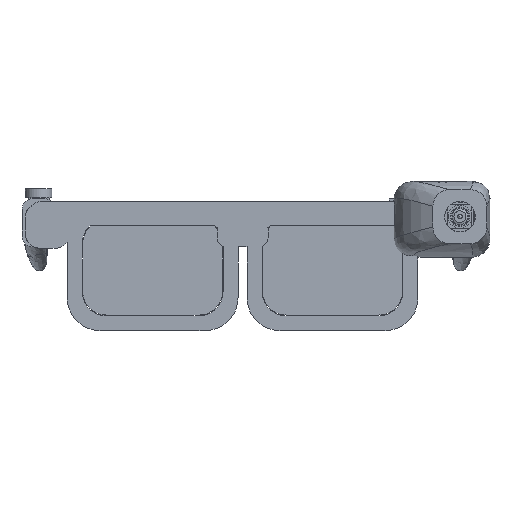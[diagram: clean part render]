
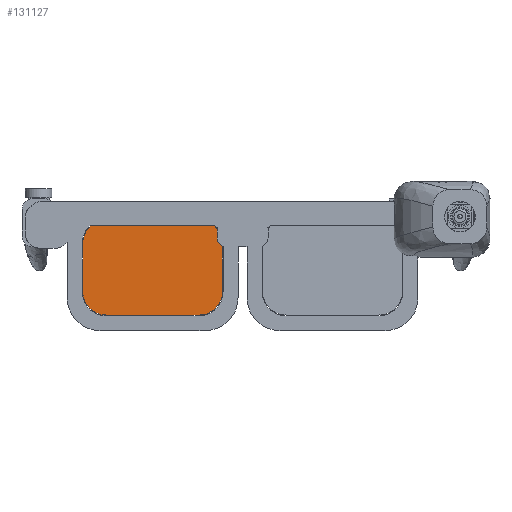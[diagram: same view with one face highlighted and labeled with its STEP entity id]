
A CAD part, front view. The second image highlights one B-rep face of the part: STEP entity #131127.
In plain terms, the highlighted planar face has unit normal (0, -1, 0).
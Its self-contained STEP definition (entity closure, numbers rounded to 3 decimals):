
#130875 = EDGE_CURVE('',#130876,#130878,#130880,.T.);
#130876 = VERTEX_POINT('',#130877);
#130877 = CARTESIAN_POINT('',(-53.3,1.5,-8.));
#130878 = VERTEX_POINT('',#130879);
#130879 = CARTESIAN_POINT('',(-45.5,1.5,-15.8));
#130880 = CIRCLE('',#130881,7.8);
#130881 = AXIS2_PLACEMENT_3D('',#130882,#130883,#130884);
#130882 = CARTESIAN_POINT('',(-45.5,1.5,-8.));
#130883 = DIRECTION('',(0.,-1.,0.));
#130884 = DIRECTION('',(1.,0.,0.));
#130926 = EDGE_CURVE('',#130878,#130927,#130929,.T.);
#130927 = VERTEX_POINT('',#130928);
#130928 = CARTESIAN_POINT('',(-14.5,1.5,-15.8));
#130929 = LINE('',#130930,#130931);
#130930 = CARTESIAN_POINT('',(-45.5,1.5,-15.8));
#130931 = VECTOR('',#130932,1.);
#130932 = DIRECTION('',(1.,0.,0.));
#130958 = VERTEX_POINT('',#130959);
#130959 = CARTESIAN_POINT('',(-53.3,1.5,8.));
#130965 = EDGE_CURVE('',#130876,#130958,#130966,.T.);
#130966 = LINE('',#130967,#130968);
#130967 = CARTESIAN_POINT('',(-53.3,1.5,-8.));
#130968 = VECTOR('',#130969,1.);
#130969 = DIRECTION('',(0.,0.,1.));
#130979 = EDGE_CURVE('',#130927,#130980,#130982,.T.);
#130980 = VERTEX_POINT('',#130981);
#130981 = CARTESIAN_POINT('',(-6.7,1.5,-8.));
#130982 = CIRCLE('',#130983,7.8);
#130983 = AXIS2_PLACEMENT_3D('',#130984,#130985,#130986);
#130984 = CARTESIAN_POINT('',(-14.5,1.5,-8.));
#130985 = DIRECTION('',(0.,-1.,0.));
#130986 = DIRECTION('',(1.,0.,0.));
#131012 = EDGE_CURVE('',#131013,#130958,#131015,.T.);
#131013 = VERTEX_POINT('',#131014);
#131014 = CARTESIAN_POINT('',(-45.5,1.5,15.8));
#131015 = CIRCLE('',#131016,7.8);
#131016 = AXIS2_PLACEMENT_3D('',#131017,#131018,#131019);
#131017 = CARTESIAN_POINT('',(-45.5,1.5,8.));
#131018 = DIRECTION('',(0.,-1.,0.));
#131019 = DIRECTION('',(1.,0.,0.));
#131054 = EDGE_CURVE('',#131013,#131055,#131057,.T.);
#131055 = VERTEX_POINT('',#131056);
#131056 = CARTESIAN_POINT('',(-14.5,1.5,15.8));
#131057 = LINE('',#131058,#131059);
#131058 = CARTESIAN_POINT('',(-45.5,1.5,15.8));
#131059 = VECTOR('',#131060,1.);
#131060 = DIRECTION('',(1.,0.,0.));
#131086 = VERTEX_POINT('',#131087);
#131087 = CARTESIAN_POINT('',(-6.7,1.5,8.));
#131093 = EDGE_CURVE('',#130980,#131086,#131094,.T.);
#131094 = LINE('',#131095,#131096);
#131095 = CARTESIAN_POINT('',(-6.7,1.5,-8.));
#131096 = VECTOR('',#131097,1.);
#131097 = DIRECTION('',(0.,0.,1.));
#131107 = EDGE_CURVE('',#131086,#131055,#131108,.T.);
#131108 = CIRCLE('',#131109,7.8);
#131109 = AXIS2_PLACEMENT_3D('',#131110,#131111,#131112);
#131110 = CARTESIAN_POINT('',(-14.5,1.5,8.));
#131111 = DIRECTION('',(0.,-1.,0.));
#131112 = DIRECTION('',(1.,0.,0.));
#131127 = ADVANCED_FACE('',(#131128),#131138,.T.);
#131128 = FACE_BOUND('',#131129,.T.);
#131129 = EDGE_LOOP('',(#131130,#131131,#131132,#131133,#131134,#131135,
    #131136,#131137));
#131130 = ORIENTED_EDGE('',*,*,#130875,.T.);
#131131 = ORIENTED_EDGE('',*,*,#130926,.T.);
#131132 = ORIENTED_EDGE('',*,*,#130979,.T.);
#131133 = ORIENTED_EDGE('',*,*,#131093,.T.);
#131134 = ORIENTED_EDGE('',*,*,#131107,.T.);
#131135 = ORIENTED_EDGE('',*,*,#131054,.F.);
#131136 = ORIENTED_EDGE('',*,*,#131012,.T.);
#131137 = ORIENTED_EDGE('',*,*,#130965,.F.);
#131138 = PLANE('',#131139);
#131139 = AXIS2_PLACEMENT_3D('',#131140,#131141,#131142);
#131140 = CARTESIAN_POINT('',(-30.,1.5,0.));
#131141 = DIRECTION('',(0.,-1.,0.));
#131142 = DIRECTION('',(1.,0.,0.));
